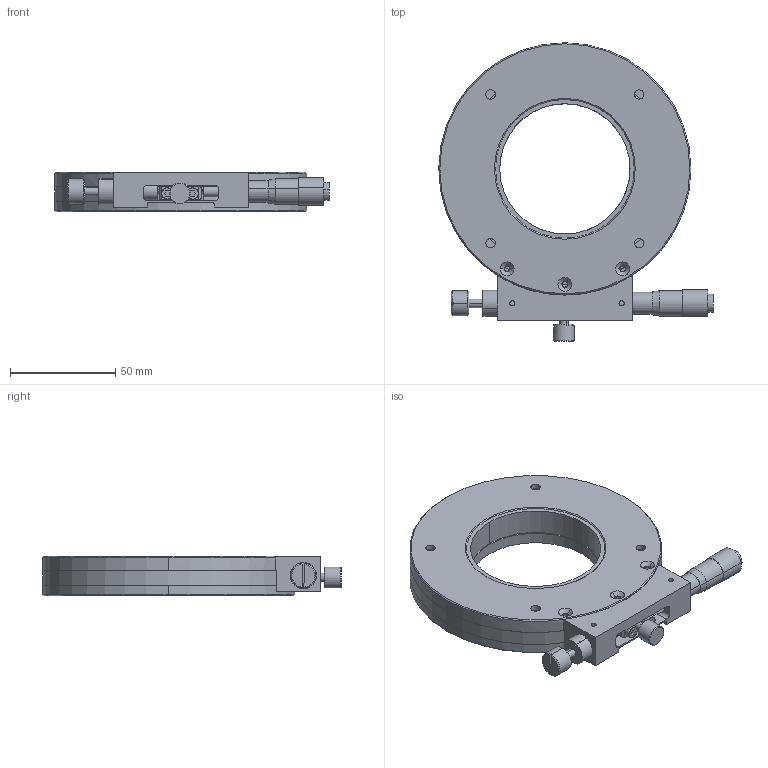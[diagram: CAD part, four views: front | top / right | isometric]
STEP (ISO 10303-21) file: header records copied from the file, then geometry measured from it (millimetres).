
FILE_DESCRIPTION (( 'STEP AP214' ), '1' );
FILE_NAME ('PT-SR120.STEP', '2023-05-07T09:06:14', ( '' ), ( '' ), 'SwSTEP 2.0', 'SolidWorks 2017', '' );
FILE_SCHEMA (( 'AUTOMOTIVE_DESIGN' ));
Length unit declared in the file: millimetre
Products named in the file (2): PT-SR120
Bounding box: 130.6 x 142.02 x 19 mm (x, y, z)
Volume: 141193.1 mm3; surface area: 80107.8 mm2
Topology: 22 solids, 22 shells, 516 faces, 1247 edges, 795 vertices
Faces by surface type: cylinder 248, plane 179, cone 50, bspline 39
Entity records: 22488 total; most frequent: CARTESIAN_POINT 4215, DIRECTION 2707, ORIENTED_EDGE 2446, EDGE_CURVE 1223, AXIS2_PLACEMENT_3D 1083, VERTEX_POINT 795, EDGE_LOOP 642, CIRCLE 604
